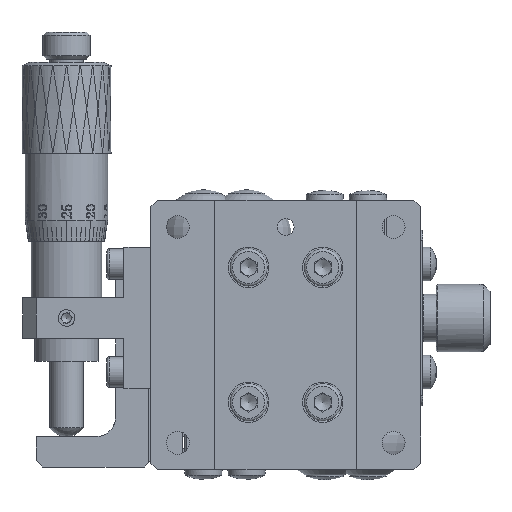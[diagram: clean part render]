
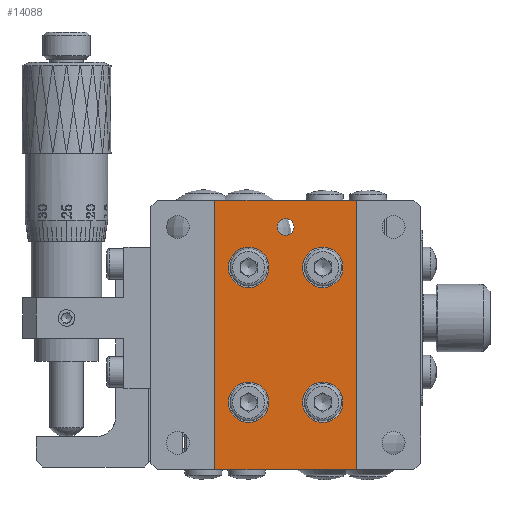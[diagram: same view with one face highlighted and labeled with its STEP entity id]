
A CAD part, front view. The second image highlights one B-rep face of the part: STEP entity #14088.
In plain terms, the highlighted planar face has unit normal (0, -1, 0).
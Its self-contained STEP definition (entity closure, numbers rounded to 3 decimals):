
#455 = ORIENTED_EDGE ( 'NONE', *, *, #67232, .F. ) ;
#981 = DIRECTION ( 'NONE',  ( -1., 0., 0. ) ) ;
#995 = EDGE_CURVE ( 'NONE', #36530, #61333, #34561, .T. ) ;
#2555 = EDGE_CURVE ( 'NONE', #28733, #28733, #56501, .T. ) ;
#3619 = AXIS2_PLACEMENT_3D ( 'NONE', #49278, #15758, #5056 ) ;
#4107 = CARTESIAN_POINT ( 'NONE',  ( 30.5, 1.5, -71.6 ) ) ;
#5056 = DIRECTION ( 'NONE',  ( 0., 0., -1. ) ) ;
#5502 = DIRECTION ( 'NONE',  ( 0., -1., 0. ) ) ;
#7424 = CARTESIAN_POINT ( 'NONE',  ( 20., 1.5, 36. ) ) ;
#7552 = ORIENTED_EDGE ( 'NONE', *, *, #995, .F. ) ;
#7584 = ORIENTED_EDGE ( 'NONE', *, *, #2555, .F. ) ;
#9304 = DIRECTION ( 'NONE',  ( 0., 1., 0. ) ) ;
#9611 = EDGE_CURVE ( 'NONE', #58095, #38168, #20456, .T. ) ;
#10394 = PLANE ( 'NONE',  #18893 ) ;
#10805 = ORIENTED_EDGE ( 'NONE', *, *, #20005, .F. ) ;
#11116 = EDGE_CURVE ( 'NONE', #62608, #62608, #15229, .T. ) ;
#11419 = DIRECTION ( 'NONE',  ( 0., 0., -1. ) ) ;
#12044 = CARTESIAN_POINT ( 'NONE',  ( 25.5, 1.5, 27. ) ) ;
#14088 = ADVANCED_FACE ( 'NONE', ( #16287, #21099, #54593, #26599, #42851, #33259 ), #10394, .F. ) ;
#15229 = CIRCLE ( 'NONE', #58705, 1.25 ) ;
#15758 = DIRECTION ( 'NONE',  ( 0., -1., 0. ) ) ;
#15902 = DIRECTION ( 'NONE',  ( 0., 0., -1. ) ) ;
#16287 = FACE_BOUND ( 'NONE', #16439, .T. ) ;
#16439 = EDGE_LOOP ( 'NONE', ( #10805 ) ) ;
#16549 = EDGE_LOOP ( 'NONE', ( #455 ) ) ;
#17014 = CARTESIAN_POINT ( 'NONE',  ( 30.5, 1.5, 40. ) ) ;
#17501 = EDGE_LOOP ( 'NONE', ( #7584 ) ) ;
#18893 = AXIS2_PLACEMENT_3D ( 'NONE', #4107, #9304, #66729 ) ;
#18991 = CIRCLE ( 'NONE', #23672, 3. ) ;
#20005 = EDGE_CURVE ( 'NONE', #45576, #45576, #18991, .T. ) ;
#20233 = EDGE_CURVE ( 'NONE', #50353, #50353, #22518, .T. ) ;
#20456 = LINE ( 'NONE', #45125, #39873 ) ;
#21099 = FACE_BOUND ( 'NONE', #16549, .T. ) ;
#21241 = EDGE_CURVE ( 'NONE', #36530, #58095, #44157, .T. ) ;
#22518 = CIRCLE ( 'NONE', #3619, 3. ) ;
#23220 = CARTESIAN_POINT ( 'NONE',  ( 14.5, 1.5, 27. ) ) ;
#23513 = VECTOR ( 'NONE', #981, 1000. ) ;
#23549 = CARTESIAN_POINT ( 'NONE',  ( 9.5, 1.5, 40. ) ) ;
#23672 = AXIS2_PLACEMENT_3D ( 'NONE', #62220, #5502, #11419 ) ;
#24234 = ORIENTED_EDGE ( 'NONE', *, *, #20233, .F. ) ;
#25235 = EDGE_CURVE ( 'NONE', #61333, #38168, #49836, .T. ) ;
#26362 = ORIENTED_EDGE ( 'NONE', *, *, #11116, .F. ) ;
#26450 = CARTESIAN_POINT ( 'NONE',  ( 30.5, 1.5, -71.6 ) ) ;
#26599 = FACE_BOUND ( 'NONE', #43725, .T. ) ;
#28314 = ORIENTED_EDGE ( 'NONE', *, *, #25235, .F. ) ;
#28733 = VERTEX_POINT ( 'NONE', #23220 ) ;
#29903 = DIRECTION ( 'NONE',  ( 0., 0., 1. ) ) ;
#33015 = AXIS2_PLACEMENT_3D ( 'NONE', #67959, #34478, #56919 ) ;
#33060 = CARTESIAN_POINT ( 'NONE',  ( 14.5, 1.5, 7. ) ) ;
#33106 = DIRECTION ( 'NONE',  ( 0., 0., 1. ) ) ;
#33259 = FACE_BOUND ( 'NONE', #17501, .T. ) ;
#34478 = DIRECTION ( 'NONE',  ( 0., -1., 0. ) ) ;
#34561 = LINE ( 'NONE', #51482, #23513 ) ;
#34638 = CARTESIAN_POINT ( 'NONE',  ( 20., 1.5, 37.25 ) ) ;
#36530 = VERTEX_POINT ( 'NONE', #48576 ) ;
#36598 = VECTOR ( 'NONE', #33106, 1000. ) ;
#37435 = CARTESIAN_POINT ( 'NONE',  ( 9.5, 1.5, 0. ) ) ;
#38023 = CARTESIAN_POINT ( 'NONE',  ( 25.5, 1.5, 10. ) ) ;
#38053 = DIRECTION ( 'NONE',  ( 0., 0., 1. ) ) ;
#38168 = VERTEX_POINT ( 'NONE', #23549 ) ;
#39873 = VECTOR ( 'NONE', #72678, 1000. ) ;
#39936 = ORIENTED_EDGE ( 'NONE', *, *, #9611, .T. ) ;
#42851 = FACE_OUTER_BOUND ( 'NONE', #49770, .T. ) ;
#43241 = CIRCLE ( 'NONE', #49279, 3. ) ;
#43355 = VERTEX_POINT ( 'NONE', #44470 ) ;
#43725 = EDGE_LOOP ( 'NONE', ( #26362 ) ) ;
#44157 = LINE ( 'NONE', #26450, #36598 ) ;
#44470 = CARTESIAN_POINT ( 'NONE',  ( 25.5, 1.5, 7. ) ) ;
#44692 = CARTESIAN_POINT ( 'NONE',  ( 9.5, 1.5, -71.6 ) ) ;
#45125 = CARTESIAN_POINT ( 'NONE',  ( 0., 1.5, 40. ) ) ;
#45576 = VERTEX_POINT ( 'NONE', #12044 ) ;
#48576 = CARTESIAN_POINT ( 'NONE',  ( 30.5, 1.5, 0. ) ) ;
#49278 = CARTESIAN_POINT ( 'NONE',  ( 14.5, 1.5, 10. ) ) ;
#49279 = AXIS2_PLACEMENT_3D ( 'NONE', #38023, #71867, #15902 ) ;
#49770 = EDGE_LOOP ( 'NONE', ( #63095, #39936, #28314, #7552 ) ) ;
#49836 = LINE ( 'NONE', #44692, #57223 ) ;
#50353 = VERTEX_POINT ( 'NONE', #33060 ) ;
#51482 = CARTESIAN_POINT ( 'NONE',  ( 0., 1.5, 0. ) ) ;
#54593 = FACE_BOUND ( 'NONE', #58774, .T. ) ;
#56501 = CIRCLE ( 'NONE', #33015, 3. ) ;
#56919 = DIRECTION ( 'NONE',  ( 0., 0., -1. ) ) ;
#57223 = VECTOR ( 'NONE', #38053, 1000. ) ;
#57876 = DIRECTION ( 'NONE',  ( 0., -1., 0. ) ) ;
#58095 = VERTEX_POINT ( 'NONE', #17014 ) ;
#58705 = AXIS2_PLACEMENT_3D ( 'NONE', #7424, #57876, #29903 ) ;
#58774 = EDGE_LOOP ( 'NONE', ( #24234 ) ) ;
#61333 = VERTEX_POINT ( 'NONE', #37435 ) ;
#62220 = CARTESIAN_POINT ( 'NONE',  ( 25.5, 1.5, 30. ) ) ;
#62608 = VERTEX_POINT ( 'NONE', #34638 ) ;
#63095 = ORIENTED_EDGE ( 'NONE', *, *, #21241, .T. ) ;
#66729 = DIRECTION ( 'NONE',  ( 0., 0., 1. ) ) ;
#67232 = EDGE_CURVE ( 'NONE', #43355, #43355, #43241, .T. ) ;
#67959 = CARTESIAN_POINT ( 'NONE',  ( 14.5, 1.5, 30. ) ) ;
#71867 = DIRECTION ( 'NONE',  ( 0., -1., 0. ) ) ;
#72678 = DIRECTION ( 'NONE',  ( -1., 0., 0. ) ) ;
